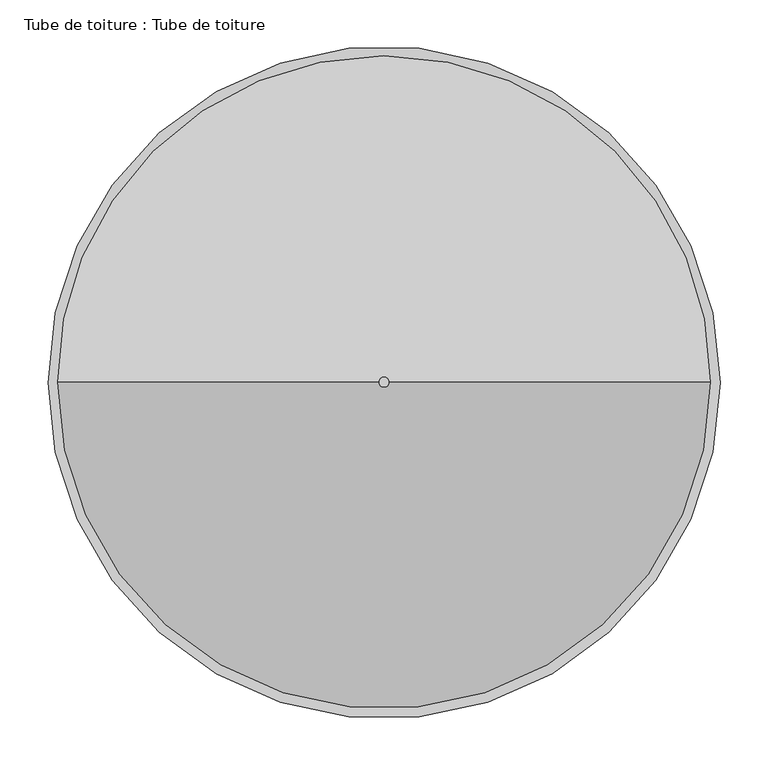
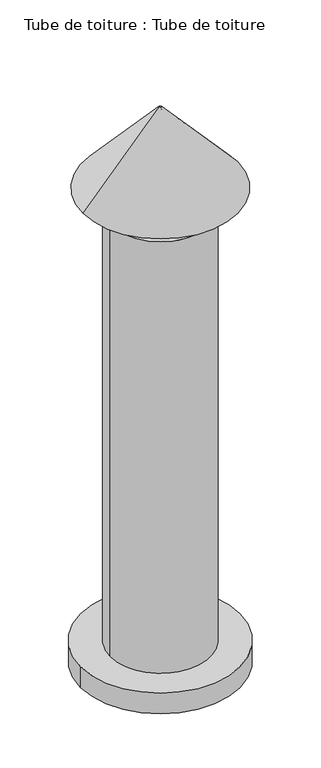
"""IFC4 building model written with IfcOpenShell, lengths in millimetres: proxy geometry, Tube de toiture : Tube de toiture."""

from ifc_helpers import new_model, si_unit, point, frame, frame_2d, origin, place, context, project, spatial, polyline, circle_curve, trimmed, segment, composite_curve, outline, extrude, source, transform, mapped, element, save
from ifc_brep_helpers import plane_surface, revolved_surface, advanced_brep


def tube_de_toiture_tube_de_toiture_d873e199(model_context):
    return source(origin(), model_context, "Body", "SolidModel", [
        advanced_brep(
        [(-13608.0864534, -7626.9406757, 15567.3636217), (-14243.3547717, -7626.9406757, 15567.3636217), (-13931.2242366, -7626.9406757, 15916.2153962), (-13920.2169884, -7626.9406757, 15916.2153962), (-13691.4096631, -7626.9406757, 15557.3636217), (-14160.031562, -7626.9406757, 15557.3636217), (-14160.031562, -7626.9406757, 15567.3636217), (-13691.4096631, -7626.9406757, 15567.3636217), (-13920.2169884, -7626.9406757, 15931.2125124), (-13931.2242366, -7626.9406757, 15931.2125124), (-14265.7206125, -7626.9406757, 15557.3636217), (-13585.7206125, -7626.9406757, 15557.3636217)],
        [
            (0, 1, circle_curve(frame((-13925.7206125, -7626.9406757, 15567.3636217), z_axis=(0.0, 0.0, -1.0), x_axis=(-1.0, 0.0, 0.0)), 317.6341592)),
            (1, 2),
            (2, 3, circle_curve(frame((-13925.7206125, -7626.9406757, 15916.2153962), z_axis=(0.0, 0.0, 1.0), x_axis=(-1.0, 0.0, 0.0)), 5.5036241)),
            (3, 0),
            (4, 5, circle_curve(frame((-13925.7206125, -7626.9406757, 15557.3636217), z_axis=(0.0, 0.0, -1.0), x_axis=(-1.0, 0.0, 0.0)), 234.3109495)),
            (5, 6),
            (6, 7, circle_curve(frame((-13925.7206125, -7626.9406757, 15567.3636217), z_axis=(0.0, 0.0, 1.0), x_axis=(-1.0, 0.0, 0.0)), 234.3109495)),
            (7, 4),
            (8, 9, circle_curve(frame((-13925.7206125, -7626.9406757, 15931.2125124), z_axis=(0.0, 0.0, -1.0), x_axis=(-1.0, 0.0, 0.0)), 5.5036241)),
            (9, 10),
            (10, 11, circle_curve(frame((-13925.7206125, -7626.9406757, 15557.3636217), z_axis=(0.0, 0.0, 1.0), x_axis=(-1.0, 0.0, 0.0)), 340.0)),
            (11, 8),
            (2, 9),
            (8, 3),
            (1, 0, circle_curve(frame((-13925.7206125, -7626.9406757, 15567.3636217), z_axis=(0.0, 0.0, -1.0), x_axis=(1.0, 0.0, 0.0)), 317.6341592)),
            (3, 2, circle_curve(frame((-13925.7206125, -7626.9406757, 15916.2153962), z_axis=(0.0, 0.0, 1.0), x_axis=(1.0, 0.0, 0.0)), 5.5036241)),
            (6, 7, circle_curve(frame((-13925.7206125, -7626.9406757, 15567.3636217), z_axis=(0.0, 0.0, -1.0), x_axis=(1.0, 0.0, 0.0)), 234.3109495)),
            (5, 4, circle_curve(frame((-13925.7206125, -7626.9406757, 15557.3636217), z_axis=(0.0, 0.0, -1.0), x_axis=(1.0, 0.0, 0.0)), 234.3109495)),
            (10, 11, circle_curve(frame((-13925.7206125, -7626.9406757, 15557.3636217), z_axis=(0.0, 0.0, -1.0), x_axis=(1.0, 0.0, 0.0)), 340.0)),
            (9, 8, circle_curve(frame((-13925.7206125, -7626.9406757, 15931.2125124), z_axis=(0.0, 0.0, -1.0), x_axis=(1.0, 0.0, 0.0)), 5.5036241)),
        ],
        [
            revolved_surface(polyline([(-13931.2242366, -7626.9406757, 15916.2153962), (-14243.3547717, -7626.9406757, 15567.3636217)]), (-13925.7206125, -7626.9406757, 15460.0), (0.0, 0.0, 1.0)),
            revolved_surface(polyline([(-14160.031562, -7626.9406757, 15567.3636217), (-14160.031562, -7626.9406757, 15557.3636217)]), (-13925.7206125, -7626.9406757, 15460.0), (0.0, 0.0, 1.0)),
            revolved_surface(polyline([(-14265.7206125, -7626.9406757, 15557.3636217), (-13931.2242366, -7626.9406757, 15931.2125124)]), (-13925.7206125, -7626.9406757, 15460.0), (0.0, 0.0, 1.0)),
            revolved_surface(polyline([(-13931.2242366, -7626.9406757, 15931.2125124), (-13931.2242366, -7626.9406757, 15916.2153962)]), (-13925.7206125, -7626.9406757, 15460.0), (0.0, 0.0, 1.0)),
            revolved_surface(polyline([(-13920.2169884, -7626.9406757, 15916.2153962), (-13608.0864534, -7626.9406757, 15567.3636217)]), (-13925.7206125, -7626.9406757, 15460.0), (0.0, 0.0, 1.0)),
            plane_surface(frame((-13925.7206125, -7626.9406757, 15567.3636217), z_axis=(0.0, 0.0, 1.0), x_axis=(1.0, 0.0, 0.0))),
            revolved_surface(polyline([(-13691.409662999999, -7626.9406757, 15567.3636217), (-13691.409662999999, -7626.9406757, 15557.3636217)]), (-13925.7206125, -7626.9406757, 15460.0), (0.0, 0.0, 1.0)),
            plane_surface(frame((-13925.7206125, -7626.9406757, 15557.3636217), z_axis=(0.0, 0.0, -1.0), x_axis=(1.0, 0.0, 0.0))),
            revolved_surface(polyline([(-13585.7206125, -7626.9406757, 15557.3636217), (-13920.2169884, -7626.9406757, 15931.2125124)]), (-13925.7206125, -7626.9406757, 15460.0), (0.0, 0.0, 1.0)),
            revolved_surface(polyline([(-13920.2169884, -7626.9406757, 15931.2125124), (-13920.2169884, -7626.9406757, 15916.2153962)]), (-13925.7206125, -7626.9406757, 15460.0), (0.0, 0.0, 1.0)),
        ],
        [
            (0, [[1, 2, 3, 4]]),
            (1, [[5, 6, 7, 8]]),
            (2, [[9, 10, 11, 12]]),
            (3, [[-3, 13, -9, 14]]),
            (4, [[15, -4, 16, -2]]),
            (5, [[-15, -1], [17, -7]]),
            (6, [[18, -8, -17, -6]]),
            (7, [[19, -11], [-18, -5]]),
            (8, [[20, -12, -19, -10]]),
            (9, [[-16, -14, -20, -13]]),
        ],
    ),
        extrude(outline(composite_curve([segment(trimmed(circle_curve(frame_2d((-13925.7206125, -7626.9406757)), 350.0), [point((-14275.7206125, -7626.9406757))], [point((-13575.7206125, -7626.9406757))], False, "CARTESIAN"), True, "CONTINUOUS"), segment(trimmed(circle_curve(frame_2d((-13925.7206125, -7626.9406757)), 350.0), [point((-13575.7206125, -7626.9406757))], [point((-14275.7206125, -7626.9406757))], False, "CARTESIAN"), True, "CONTINUOUS")], self_intersect=False)), frame((0.0, 0.0, 13363.3082742), z_axis=(0.0, 0.0, 1.0), x_axis=(1.0, 0.0, 0.0)), (0.0, 0.0, 1.0), 96.6917258),
        extrude(outline(composite_curve([segment(trimmed(circle_curve(frame_2d((-13925.7206125, -7626.9406757)), 220.0), [point((-14145.7206125, -7626.9406757))], [point((-13705.7206125, -7626.9406757))], False, "CARTESIAN"), True, "CONTINUOUS"), segment(trimmed(circle_curve(frame_2d((-13925.7206125, -7626.9406757)), 220.0), [point((-13705.7206125, -7626.9406757))], [point((-14145.7206125, -7626.9406757))], False, "CARTESIAN"), True, "CONTINUOUS")], self_intersect=False), holes=[composite_curve([segment(trimmed(circle_curve(frame_2d((-13925.7206125, -7626.9406757)), 190.0), [point((-14115.7206125, -7626.9406757))], [point((-13735.7206125, -7626.9406757))], True, "CARTESIAN"), True, "CONTINUOUS"), segment(trimmed(circle_curve(frame_2d((-13925.7206125, -7626.9406757)), 190.0), [point((-13735.7206125, -7626.9406757))], [point((-14115.7206125, -7626.9406757))], True, "CARTESIAN"), True, "CONTINUOUS")], self_intersect=False)]), frame((0.0, 0.0, 13460.0), z_axis=(0.0, 0.0, 1.0), x_axis=(1.0, 0.0, 0.0)), (0.0, 0.0, 1.0), 2000.0),
    ])


if __name__ == "__main__":
    model = new_model("IFC4")
    model_context = context("Model", 3, world=origin())
    ifc_project = project(units=[si_unit("LENGTHUNIT", "METRE", prefix="MILLI")], contexts=[model_context])
    site = spatial("IfcSite", under=ifc_project)
    building = spatial("IfcBuilding", under=site)
    placement = place(None, origin())
    tube_de_toiture_tube_de_toiture_shape = tube_de_toiture_tube_de_toiture_d873e199(model_context)
    element("IfcBuildingElementProxy", 1, Name="Tube de toiture : Tube de toiture", ObjectType="Tube de toiture : Tube de toiture", at=placement, inside=building, context=model_context, shape_type="MappedRepresentation", body=[
        mapped(tube_de_toiture_tube_de_toiture_shape, transform((0.0, 0.0, 0.0), x_axis=(1.0, 0.0, 0.0), y_axis=(0.0, 1.0, 0.0), z_axis=(0.0, 0.0, 1.0))),
    ])
    save(model, "model.ifc")
